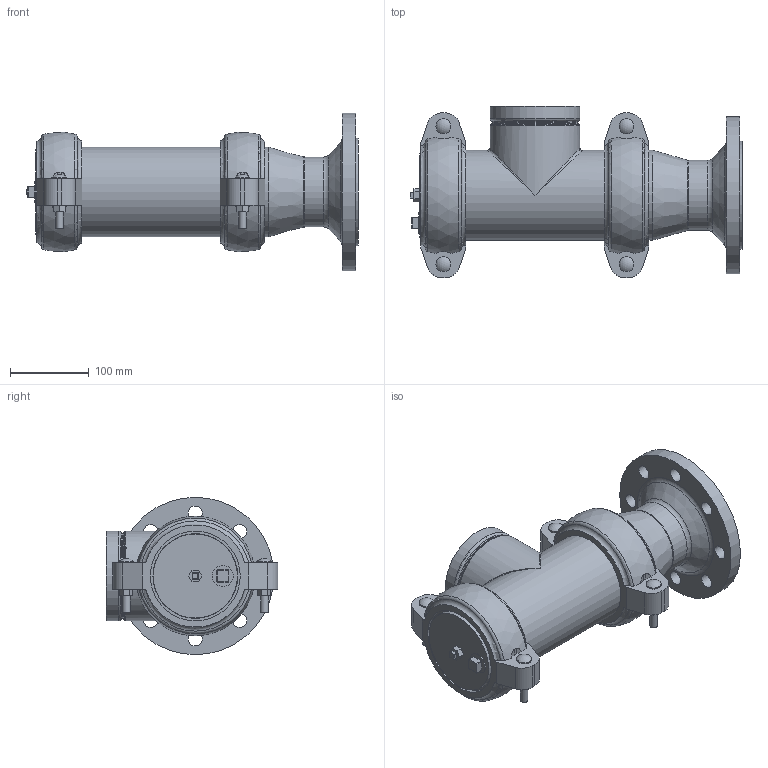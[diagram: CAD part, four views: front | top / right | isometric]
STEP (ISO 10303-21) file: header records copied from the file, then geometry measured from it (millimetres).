
FILE_DESCRIPTION(/* description */ ('VIC STRENGTHIN SUCTION DIFFUSER SERIES E431','CAx-IF Rec.Pracs.---Representation and Presentation of Product Manufacturing Information (PMI)---4.0---2014-10-13'),/* implementation_level */ '2;1');
FILE_NAME(/* name */ 'C:\Users\Vjadhav\AppData\Roaming\Autodesk\ApplicationPlugins\Back Up\Victaulic_SS-StrengThin 100_Suction Diffuser_PN16_Series E431 (ST1xFLG)\Victaulic_SS-StrengThin 100_Suction Diffuser_PN16_04.0x03.0 (100x80).stp',/* time_stamp */ '2020-07-07T13:02:56+06:00',/* author */ ('VJadhav'),/* organization */ ('Victaulic'),/* preprocessor_version */ 'ST-DEVELOPER v17.2',/* originating_system */ 'Autodesk Inventor 2019',/* authorisation */ '');
FILE_SCHEMA (('AP242_MANAGED_MODEL_BASED_3D_ENGINEERING_MIM_LF { 1 0 10303 442 1 1 4 }'));
Length unit declared in the file: inch
Products named in the file (5): E431-04.0x03.0; E492-04.0; E431-04.0; E497-04.0; E431-04.0_1
Assembly tree (5 placements, depth 2):
  E431-04.0x03.0
    E492-04.0
    E497-04.0  x2
    E431-04.0
    E431-04.0_1
Bounding box: 422.4 x 218.19 x 200.15 mm (x, y, z)
Volume: 2098791.3 mm3; surface area: 528097.1 mm2
Topology: 5 solids, 5 shells, 312 faces, 885 edges, 596 vertices
Faces by surface type: plane 115, cylinder 108, torus 59, sphere 16, cone 12, bspline 2
Full cylindrical faces by diameter (mm): 9.525 x8, 18.034 x8, 19.05 x4, 26.67 x1, 77.724 x1, 82.55 x1, 84.328 x1, 88.9 x1, 101.6 x2, 105.639 x3, 107.315 x1, 108.839 x3, 111.1 x5, 114.3 x11, 137.16 x1, 200.152 x1
Entity records: 8763 total; most frequent: CARTESIAN_POINT 1811, DIRECTION 1531, ORIENTED_EDGE 1324, EDGE_CURVE 662, AXIS2_PLACEMENT_3D 652, VERTEX_POINT 450, CIRCLE 400, EDGE_LOOP 278
